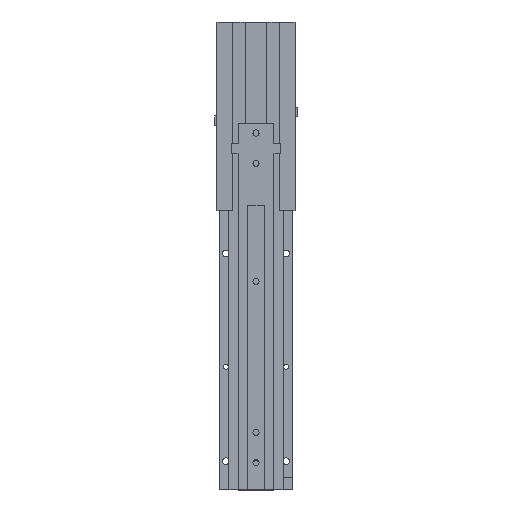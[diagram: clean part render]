
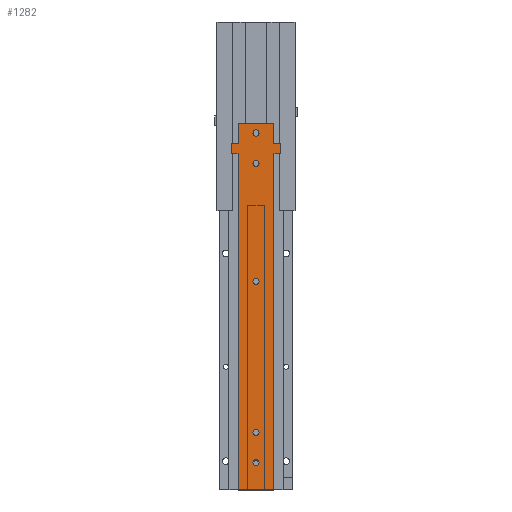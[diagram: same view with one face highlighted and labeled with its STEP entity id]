
A CAD part, top view. The second image highlights one B-rep face of the part: STEP entity #1282.
In plain terms, the highlighted planar face has unit normal (0, 0, 1).
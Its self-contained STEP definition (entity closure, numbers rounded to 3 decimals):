
#1282=ADVANCED_FACE('',(#2342,#2343,#2344,#2345,#2346,#2347),#2348,.T.);
#2342=FACE_OUTER_BOUND('',#3932,.T.);
#2343=FACE_BOUND('',#3933,.T.);
#2344=FACE_BOUND('',#3934,.T.);
#2345=FACE_BOUND('',#3935,.T.);
#2346=FACE_BOUND('',#3936,.T.);
#2347=FACE_BOUND('',#3937,.T.);
#2348=PLANE('',#3938);
#3932=EDGE_LOOP('',(#4839,#4840,#4841,#4842,#4843,#4844,#4845,#4846,#4847,#4848,#4849,#4850));
#3933=EDGE_LOOP('',(#4851,#4852));
#3934=EDGE_LOOP('',(#4853,#4854));
#3935=EDGE_LOOP('',(#4855,#4856));
#3936=EDGE_LOOP('',(#4857,#4858));
#3937=EDGE_LOOP('',(#4859,#4860));
#3938=AXIS2_PLACEMENT_3D('',#4861,#4862,#4863);
#4839=ORIENTED_EDGE('',*,*,#6876,.F.);
#4840=ORIENTED_EDGE('',*,*,#6877,.F.);
#4841=ORIENTED_EDGE('',*,*,#6878,.F.);
#4842=ORIENTED_EDGE('',*,*,#6879,.F.);
#4843=ORIENTED_EDGE('',*,*,#6880,.F.);
#4844=ORIENTED_EDGE('',*,*,#6872,.F.);
#4845=ORIENTED_EDGE('',*,*,#6850,.T.);
#4846=ORIENTED_EDGE('',*,*,#6881,.T.);
#4847=ORIENTED_EDGE('',*,*,#6882,.F.);
#4848=ORIENTED_EDGE('',*,*,#6883,.F.);
#4849=ORIENTED_EDGE('',*,*,#6884,.F.);
#4850=ORIENTED_EDGE('',*,*,#6885,.T.);
#4851=ORIENTED_EDGE('',*,*,#6886,.T.);
#4852=ORIENTED_EDGE('',*,*,#6826,.T.);
#4853=ORIENTED_EDGE('',*,*,#6887,.T.);
#4854=ORIENTED_EDGE('',*,*,#6831,.T.);
#4855=ORIENTED_EDGE('',*,*,#6888,.T.);
#4856=ORIENTED_EDGE('',*,*,#6836,.T.);
#4857=ORIENTED_EDGE('',*,*,#6889,.T.);
#4858=ORIENTED_EDGE('',*,*,#6841,.T.);
#4859=ORIENTED_EDGE('',*,*,#6890,.T.);
#4860=ORIENTED_EDGE('',*,*,#6846,.T.);
#4861=CARTESIAN_POINT('',(-19.,1.2,2018.0));
#4862=DIRECTION('',(0.0,0.0,1.0));
#4863=DIRECTION('',(1.0,0.0,0.0));
#6826=EDGE_CURVE('',#7840,#7844,#7846,.T.);
#6831=EDGE_CURVE('',#7849,#7853,#7855,.T.);
#6836=EDGE_CURVE('',#7858,#7862,#7864,.T.);
#6841=EDGE_CURVE('',#7867,#7871,#7873,.T.);
#6846=EDGE_CURVE('',#7876,#7880,#7882,.T.);
#6850=EDGE_CURVE('',#7889,#7887,#7890,.T.);
#6872=EDGE_CURVE('',#7889,#7923,#7924,.T.);
#6876=EDGE_CURVE('',#7929,#7930,#7931,.T.);
#6877=EDGE_CURVE('',#7932,#7929,#7933,.T.);
#6878=EDGE_CURVE('',#7934,#7932,#7935,.T.);
#6879=EDGE_CURVE('',#7936,#7934,#7937,.T.);
#6880=EDGE_CURVE('',#7923,#7936,#7938,.T.);
#6881=EDGE_CURVE('',#7887,#7939,#7940,.T.);
#6882=EDGE_CURVE('',#7941,#7939,#7942,.T.);
#6883=EDGE_CURVE('',#7943,#7941,#7944,.T.);
#6884=EDGE_CURVE('',#7945,#7943,#7946,.T.);
#6885=EDGE_CURVE('',#7945,#7930,#7947,.T.);
#6886=EDGE_CURVE('',#7844,#7840,#7948,.T.);
#6887=EDGE_CURVE('',#7853,#7849,#7949,.T.);
#6888=EDGE_CURVE('',#7862,#7858,#7950,.T.);
#6889=EDGE_CURVE('',#7871,#7867,#7951,.T.);
#6890=EDGE_CURVE('',#7880,#7876,#7952,.T.);
#7840=VERTEX_POINT('',#8663);
#7844=VERTEX_POINT('',#8668);
#7846=CIRCLE('',#8671,3.25);
#7849=VERTEX_POINT('',#8674);
#7853=VERTEX_POINT('',#8679);
#7855=CIRCLE('',#8682,3.25);
#7858=VERTEX_POINT('',#8685);
#7862=VERTEX_POINT('',#8690);
#7864=CIRCLE('',#8693,3.25);
#7867=VERTEX_POINT('',#8696);
#7871=VERTEX_POINT('',#8701);
#7873=CIRCLE('',#8704,3.25);
#7876=VERTEX_POINT('',#8707);
#7880=VERTEX_POINT('',#8712);
#7882=CIRCLE('',#8715,3.25);
#7887=VERTEX_POINT('',#8721);
#7889=VERTEX_POINT('',#8724);
#7890=LINE('',#8725,#8726);
#7923=VERTEX_POINT('',#8773);
#7924=LINE('',#8774,#8775);
#7929=VERTEX_POINT('',#8782);
#7930=VERTEX_POINT('',#8783);
#7931=LINE('',#8784,#8785);
#7932=VERTEX_POINT('',#8786);
#7933=LINE('',#8787,#8788);
#7934=VERTEX_POINT('',#8789);
#7935=LINE('',#8790,#8791);
#7936=VERTEX_POINT('',#8792);
#7937=LINE('',#8793,#8794);
#7938=LINE('',#8795,#8796);
#7939=VERTEX_POINT('',#8797);
#7940=LINE('',#8798,#8799);
#7941=VERTEX_POINT('',#8800);
#7942=LINE('',#8801,#8802);
#7943=VERTEX_POINT('',#8803);
#7944=LINE('',#8804,#8805);
#7945=VERTEX_POINT('',#8806);
#7946=LINE('',#8807,#8808);
#7947=LINE('',#8809,#8810);
#7948=CIRCLE('',#8811,3.25);
#7949=CIRCLE('',#8812,3.25);
#7950=CIRCLE('',#8813,3.25);
#7951=CIRCLE('',#8814,3.25);
#7952=CIRCLE('',#8815,3.25);
#8663=CARTESIAN_POINT('',(-3.25,378.0,2018.0));
#8668=CARTESIAN_POINT('',(3.25,378.0,2018.0));
#8671=AXIS2_PLACEMENT_3D('',#9775,#9776,#9777);
#8674=CARTESIAN_POINT('',(-3.25,346.0,2018.0));
#8679=CARTESIAN_POINT('',(3.25,346.0,2018.0));
#8682=AXIS2_PLACEMENT_3D('',#9783,#9784,#9785);
#8685=CARTESIAN_POINT('',(-3.25,221.0,2018.0));
#8690=CARTESIAN_POINT('',(3.25,221.0,2018.0));
#8693=AXIS2_PLACEMENT_3D('',#9791,#9792,#9793);
#8696=CARTESIAN_POINT('',(-3.25,29.,2018.0));
#8701=CARTESIAN_POINT('',(3.25,29.,2018.0));
#8704=AXIS2_PLACEMENT_3D('',#9799,#9800,#9801);
#8707=CARTESIAN_POINT('',(-3.25,61.,2018.0));
#8712=CARTESIAN_POINT('',(3.25,61.,2018.0));
#8715=AXIS2_PLACEMENT_3D('',#9807,#9808,#9809);
#8721=CARTESIAN_POINT('',(19.,0.,2018.0));
#8724=CARTESIAN_POINT('',(-19.,0.,2018.0));
#8725=CARTESIAN_POINT('',(-19.,0.,2018.0));
#8726=VECTOR('',#9812,10.0);
#8773=CARTESIAN_POINT('',(-19.,356.0,2018.0));
#8774=CARTESIAN_POINT('',(-19.,1.2,2018.0));
#8775=VECTOR('',#9836,10.0);
#8782=CARTESIAN_POINT('',(-19.,388.2,2018.0));
#8783=CARTESIAN_POINT('',(19.,388.2,2018.0));
#8784=CARTESIAN_POINT('',(-9.5,388.2,2018.0));
#8785=VECTOR('',#9839,1.0);
#8786=CARTESIAN_POINT('',(-19.,366.5,2018.0));
#8787=CARTESIAN_POINT('',(-19.,1.2,2018.0));
#8788=VECTOR('',#9840,10.0);
#8789=CARTESIAN_POINT('',(-25.75,366.5,2018.0));
#8790=CARTESIAN_POINT('',(-25.75,366.5,2018.0));
#8791=VECTOR('',#9841,10.0);
#8792=CARTESIAN_POINT('',(-25.75,356.0,2018.0));
#8793=CARTESIAN_POINT('',(-25.75,356.0,2018.0));
#8794=VECTOR('',#9842,10.0);
#8795=CARTESIAN_POINT('',(25.75,356.0,2018.0));
#8796=VECTOR('',#9843,10.0);
#8797=CARTESIAN_POINT('',(19.,356.0,2018.0));
#8798=CARTESIAN_POINT('',(19.,1.2,2018.0));
#8799=VECTOR('',#9844,10.0);
#8800=CARTESIAN_POINT('',(25.75,356.0,2018.0));
#8801=CARTESIAN_POINT('',(25.75,356.0,2018.0));
#8802=VECTOR('',#9845,10.0);
#8803=CARTESIAN_POINT('',(25.75,366.5,2018.0));
#8804=CARTESIAN_POINT('',(25.75,366.5,2018.0));
#8805=VECTOR('',#9846,10.0);
#8806=CARTESIAN_POINT('',(19.,366.5,2018.0));
#8807=CARTESIAN_POINT('',(-25.75,366.5,2018.0));
#8808=VECTOR('',#9847,10.0);
#8809=CARTESIAN_POINT('',(19.,1.2,2018.0));
#8810=VECTOR('',#9848,10.0);
#8811=AXIS2_PLACEMENT_3D('',#9849,#9850,#9851);
#8812=AXIS2_PLACEMENT_3D('',#9852,#9853,#9854);
#8813=AXIS2_PLACEMENT_3D('',#9855,#9856,#9857);
#8814=AXIS2_PLACEMENT_3D('',#9858,#9859,#9860);
#8815=AXIS2_PLACEMENT_3D('',#9861,#9862,#9863);
#9775=CARTESIAN_POINT('',(0.,378.0,2018.0));
#9776=DIRECTION('',(0.0,0.0,-1.0));
#9777=DIRECTION('',(-1.0,0.0,0.0));
#9783=CARTESIAN_POINT('',(0.,346.0,2018.0));
#9784=DIRECTION('',(0.0,0.0,-1.0));
#9785=DIRECTION('',(-1.0,0.0,0.0));
#9791=CARTESIAN_POINT('',(0.,221.0,2018.0));
#9792=DIRECTION('',(0.0,0.0,-1.0));
#9793=DIRECTION('',(-1.0,0.0,0.0));
#9799=CARTESIAN_POINT('',(0.,29.,2018.0));
#9800=DIRECTION('',(0.0,0.0,-1.0));
#9801=DIRECTION('',(-1.0,0.0,0.0));
#9807=CARTESIAN_POINT('',(0.,61.,2018.0));
#9808=DIRECTION('',(0.0,0.0,-1.0));
#9809=DIRECTION('',(-1.0,0.0,0.0));
#9812=DIRECTION('',(1.0,0.0,0.0));
#9836=DIRECTION('',(0.0,1.0,0.0));
#9839=DIRECTION('',(1.0,0.0,0.0));
#9840=DIRECTION('',(0.0,1.0,0.0));
#9841=DIRECTION('',(1.0,0.0,0.0));
#9842=DIRECTION('',(0.,1.0,0.0));
#9843=DIRECTION('',(-1.0,0.0,0.0));
#9844=DIRECTION('',(0.0,1.0,0.0));
#9845=DIRECTION('',(-1.0,0.0,0.0));
#9846=DIRECTION('',(0.0,-1.0,0.0));
#9847=DIRECTION('',(1.0,0.0,0.0));
#9848=DIRECTION('',(0.0,1.0,0.0));
#9849=CARTESIAN_POINT('',(0.,378.0,2018.0));
#9850=DIRECTION('',(0.0,0.0,-1.0));
#9851=DIRECTION('',(-1.0,0.0,0.0));
#9852=CARTESIAN_POINT('',(0.,346.0,2018.0));
#9853=DIRECTION('',(0.0,0.0,-1.0));
#9854=DIRECTION('',(-1.0,0.0,0.0));
#9855=CARTESIAN_POINT('',(0.,221.0,2018.0));
#9856=DIRECTION('',(0.0,0.0,-1.0));
#9857=DIRECTION('',(-1.0,0.0,0.0));
#9858=CARTESIAN_POINT('',(0.,29.,2018.0));
#9859=DIRECTION('',(0.0,0.0,-1.0));
#9860=DIRECTION('',(-1.0,0.0,0.0));
#9861=CARTESIAN_POINT('',(0.,61.,2018.0));
#9862=DIRECTION('',(0.0,0.0,-1.0));
#9863=DIRECTION('',(-1.0,0.0,0.0));
